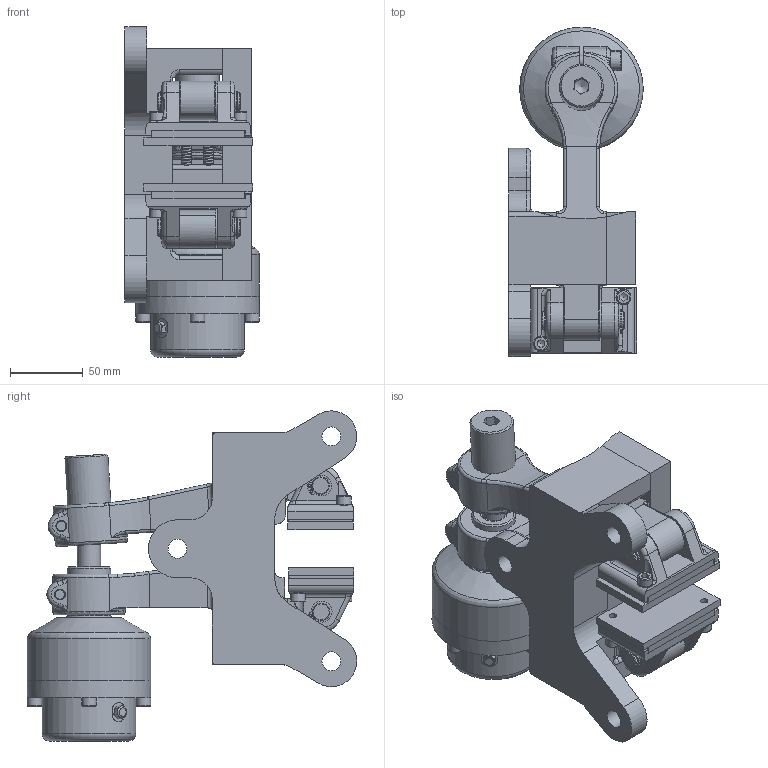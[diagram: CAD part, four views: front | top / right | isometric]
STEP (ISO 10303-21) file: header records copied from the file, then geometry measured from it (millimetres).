
FILE_DESCRIPTION(/* description */ ('','CAx-IF Rec.Pracs.---Representation and Presentation of Product Manufacturing Information (PMI)---4.0---2014-10-13'),/* implementation_level */ '2;1');
FILE_NAME(/* name */ 'X:\INVENTOR\DISEGNI\19_Pinze\STEP x Sito\PNEUM-NEGATIVE\19_36_021_04 PPF-N021_25,4.stp',/* time_stamp */ '2018-02-21T10:43:05+01:00',/* author */ ('stefano'),/* organization */ (''),/* preprocessor_version */ 'ST-DEVELOPER v17',/* originating_system */ 'Autodesk Inventor 2018',/* authorisation */ '');
FILE_SCHEMA (('AP242_MANAGED_MODEL_BASED_3D_ENGINEERING_MIM_LF { 1 0 10303 442 1 1 4 }'));
Length unit declared in the file: millimetre
Products named in the file (1): 19_36_021_04 PPF-N021_25,4_Substitute_2
Bounding box: 92.5 x 226.99 x 227.5 mm (x, y, z)
Volume: 1361366.1 mm3; surface area: 239664.1 mm2
Topology: 5 solids, 5 shells, 985 faces, 2746 edges, 1812 vertices
Faces by surface type: plane 497, cylinder 289, cone 70, torus 69, bspline 60
Full cylindrical faces by diameter (mm): 1.7 x14, 3 x1, 3.5 x4, 4.134 x1, 4.917 x9, 6 x1, 6.647 x1, 6.917 x1, 7 x1, 7.25 x2, 8 x2, 8.5 x3, 9.75 x8, 10 x15, 10.5 x2, 11.445 x1, 11.5 x4, 12 x11, 13 x5, 13.3 x6, 13.5 x2, 14 x12, 16 x6, 16.5 x2, 16.6 x1, 17 x1, 19 x1, 20.5 x1, 22 x1, 22.6 x1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
Entity records: 38163 total; most frequent: CARTESIAN_POINT 11575, DIRECTION 5441, ORIENTED_EDGE 5432, EDGE_CURVE 2716, AXIS2_PLACEMENT_3D 2096, VERTEX_POINT 1812, LINE 1249, VECTOR 1249
